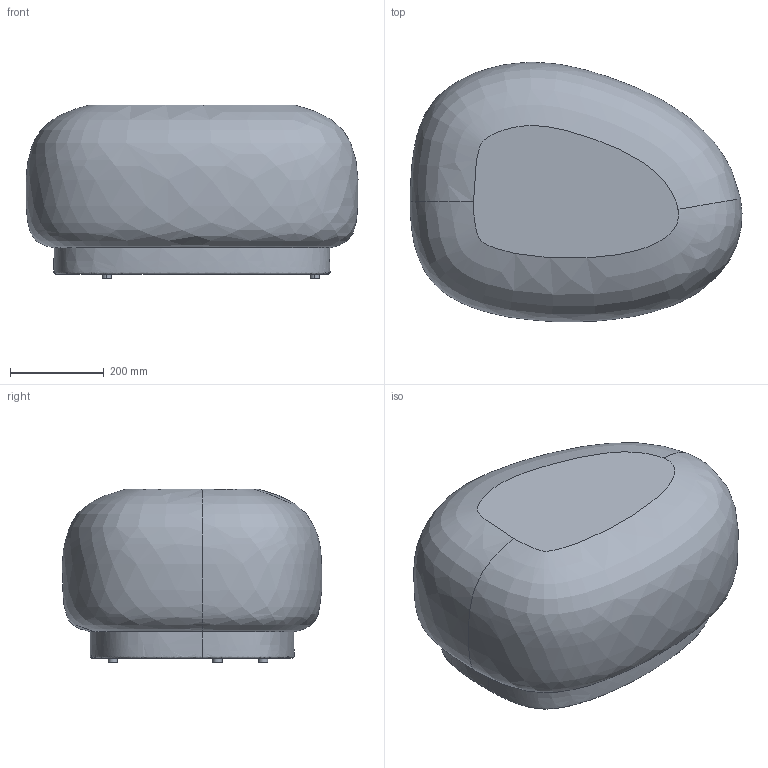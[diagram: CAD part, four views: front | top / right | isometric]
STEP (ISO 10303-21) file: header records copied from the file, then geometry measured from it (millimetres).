
FILE_DESCRIPTION(/* description */ (''),/* implementation_level */ '2;1');
FILE_NAME(/* name */ 'Rico Lounger Pouf_3D',/* time_stamp */ '2024-09-03T15:09:52+02:00',/* author */ (''),/* organization */ (''),/* preprocessor_version */ 'ST-DEVELOPER v16.5',/* originating_system */ 'Rhino 7.37',/* authorisation */ '');
FILE_SCHEMA (('CONFIG_CONTROL_DESIGN'));
Length unit declared in the file: millimetre
Products named in the file (1): Document
Bounding box: 706.87 x 552.51 x 370 mm (x, y, z)
Volume: 11689954.8 mm3; surface area: 1557241.4 mm2
Topology: 4 solids, 6 shells, 20 faces, 31 edges, 21 vertices
Faces by surface type: plane 10, cylinder 6, bspline 4
Entity records: 2436 total; most frequent: CARTESIAN_POINT 2101, ORIENTED_EDGE 59, EDGE_CURVE 31, DIRECTION 22, VERTEX_POINT 21, ADVANCED_FACE 20, FACE_OUTER_BOUND 20, EDGE_LOOP 20
